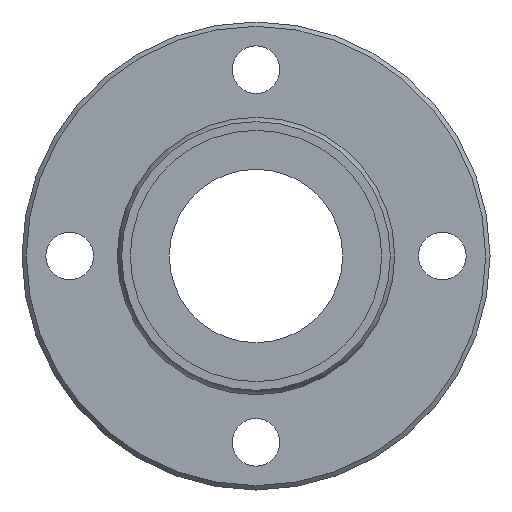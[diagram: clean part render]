
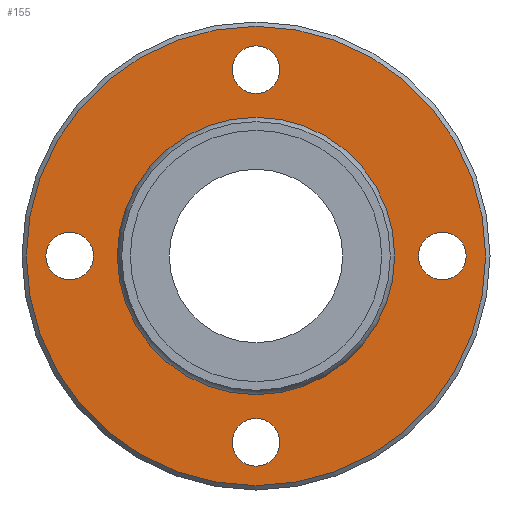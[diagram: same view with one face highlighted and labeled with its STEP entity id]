
A CAD part, left-side view. The second image highlights one B-rep face of the part: STEP entity #155.
In plain terms, the highlighted planar face has unit normal (-1, 0, 0).
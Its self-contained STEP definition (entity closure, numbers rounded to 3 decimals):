
#60=CARTESIAN_POINT('',(13.,0.,26.5));
#61=VERTEX_POINT('',#60);
#62=CARTESIAN_POINT('',(13.,0.0,0.0));
#63=DIRECTION('',(1.0,0.0,0.0));
#64=DIRECTION('',(0.0,0.0,-1.0));
#65=AXIS2_PLACEMENT_3D('',#62,#63,#64);
#66=CIRCLE('',#65,26.5);
#67=EDGE_CURVE('',#61,#61,#66,.T.);
#92=CARTESIAN_POINT('',(13.,0.0,21.387));
#93=DIRECTION('',(-1.0,0.0,0.0));
#94=DIRECTION('',(0.0,0.0,1.0));
#95=AXIS2_PLACEMENT_3D('',#92,#93,#94);
#96=PLANE('',#95);
#97=ORIENTED_EDGE('',*,*,#67,.F.);
#98=EDGE_LOOP('',(#97));
#99=FACE_OUTER_BOUND('',#98,.T.);
#100=CARTESIAN_POINT('',(13.,0.0,15.773));
#101=VERTEX_POINT('',#100);
#102=CARTESIAN_POINT('',(13.,0.0,0.0));
#103=DIRECTION('',(-1.0,0.0,0.0));
#104=DIRECTION('',(0.0,0.0,1.0));
#105=AXIS2_PLACEMENT_3D('',#102,#103,#104);
#106=CIRCLE('',#105,15.773);
#107=EDGE_CURVE('',#101,#101,#106,.T.);
#108=ORIENTED_EDGE('',*,*,#107,.F.);
#109=EDGE_LOOP('',(#108));
#110=FACE_BOUND('',#109,.T.);
#111=CARTESIAN_POINT('',(13.,18.75,0.));
#112=VERTEX_POINT('',#111);
#113=CARTESIAN_POINT('',(13.,21.5,0.));
#114=DIRECTION('',(1.0,0.0,0.0));
#115=DIRECTION('',(0.0,1.0,0.0));
#116=AXIS2_PLACEMENT_3D('',#113,#114,#115);
#117=CIRCLE('',#116,2.75);
#118=EDGE_CURVE('',#112,#112,#117,.T.);
#119=ORIENTED_EDGE('',*,*,#118,.T.);
#120=EDGE_LOOP('',(#119));
#121=FACE_BOUND('',#120,.T.);
#122=CARTESIAN_POINT('',(13.,-24.25,0.));
#123=VERTEX_POINT('',#122);
#124=CARTESIAN_POINT('',(13.,-21.5,0.0));
#125=DIRECTION('',(1.0,0.0,0.0));
#126=DIRECTION('',(0.0,1.0,0.0));
#127=AXIS2_PLACEMENT_3D('',#124,#125,#126);
#128=CIRCLE('',#127,2.75);
#129=EDGE_CURVE('',#123,#123,#128,.T.);
#130=ORIENTED_EDGE('',*,*,#129,.T.);
#131=EDGE_LOOP('',(#130));
#132=FACE_BOUND('',#131,.T.);
#133=CARTESIAN_POINT('',(13.,-2.75,21.5));
#134=VERTEX_POINT('',#133);
#135=CARTESIAN_POINT('',(13.,0.,21.5));
#136=DIRECTION('',(1.0,0.0,0.0));
#137=DIRECTION('',(0.0,1.0,0.0));
#138=AXIS2_PLACEMENT_3D('',#135,#136,#137);
#139=CIRCLE('',#138,2.75);
#140=EDGE_CURVE('',#134,#134,#139,.T.);
#141=ORIENTED_EDGE('',*,*,#140,.T.);
#142=EDGE_LOOP('',(#141));
#143=FACE_BOUND('',#142,.T.);
#144=CARTESIAN_POINT('',(13.,-2.75,-21.5));
#145=VERTEX_POINT('',#144);
#146=CARTESIAN_POINT('',(13.,0.,-21.5));
#147=DIRECTION('',(1.0,0.0,0.0));
#148=DIRECTION('',(0.0,1.0,0.0));
#149=AXIS2_PLACEMENT_3D('',#146,#147,#148);
#150=CIRCLE('',#149,2.75);
#151=EDGE_CURVE('',#145,#145,#150,.T.);
#152=ORIENTED_EDGE('',*,*,#151,.T.);
#153=EDGE_LOOP('',(#152));
#154=FACE_BOUND('',#153,.T.);
#155=ADVANCED_FACE('',(#99,#110,#121,#132,#143,#154),#96,.T.);
